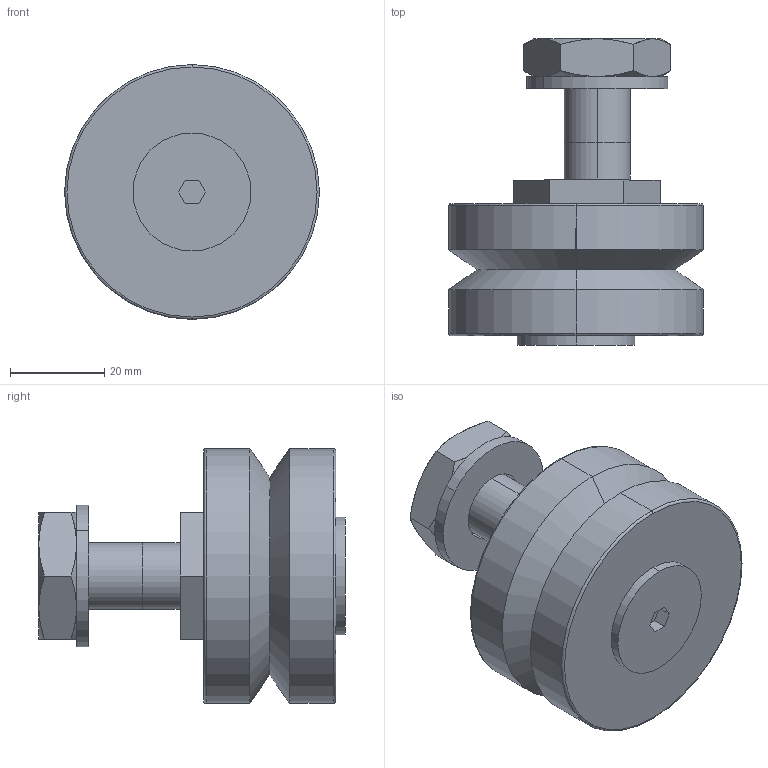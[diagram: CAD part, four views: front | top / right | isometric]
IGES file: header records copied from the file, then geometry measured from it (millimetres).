
Start section: 3D InterOp IGES (Version 21 0 1), Spatial Corp. Copyright (c) 1999-2007.
Global section: file name: NAL-54-EW.igs; native system: Spatial Corp.; preprocessor: 3D InterOp GENERIC/IGES 3.0; author: Noname; organization: Noname; date: 20220311.162531; units: millimetre
Bounding box: 54 x 64.95 x 54 mm (x, y, z)
Surface area: 15524.4 mm2 (no closed solid volume)
Topology: 0 solids, 0 shells, 74 faces, 328 edges, 328 vertices
Faces by surface type: revolution 40, extrusion 34
